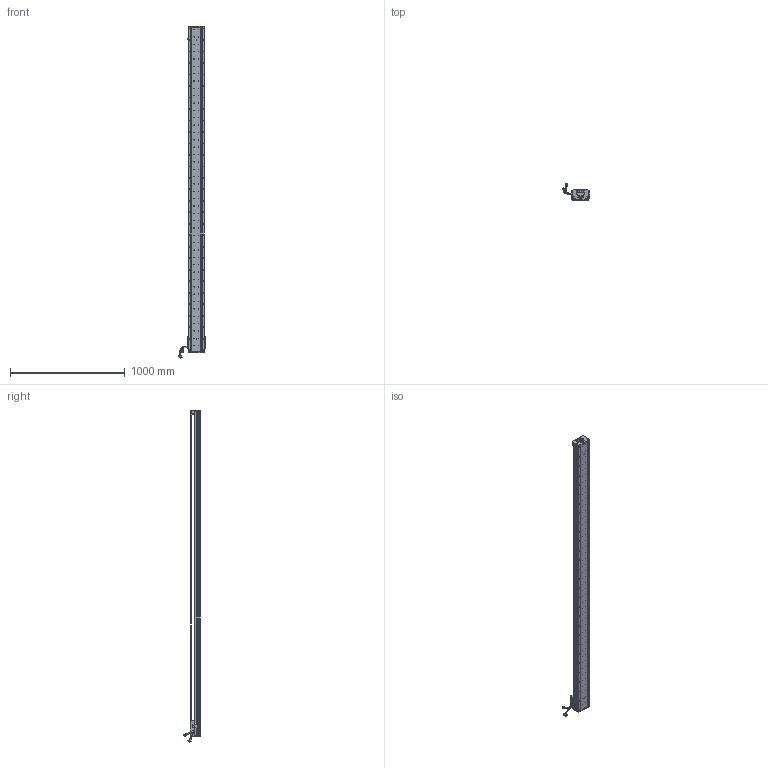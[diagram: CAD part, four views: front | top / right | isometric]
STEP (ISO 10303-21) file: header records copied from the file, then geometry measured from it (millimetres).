
FILE_DESCRIPTION (( 'STEP AP203' ), '1' );
FILE_NAME ('Z1-RY140D-1-L500-B-K.SLDASM_2650.step', '2021-05-17T07:36:03', ( '盈信电脑' ), ( '东莞市道滘镇水果街19号' ), 'SwSTEP 2.0', 'SolidWorks 2016', '' );
FILE_SCHEMA (( 'CONFIG_CONTROL_DESIGN' ));
Length unit declared in the file: millimetre
Products named in the file (36): LABEL; SCREW-M1.7-1; SCREW-M1.7; 140雄赽晤鎢ん堤盄; SEAL-Part-1; SCALE-Part-1; 140蚥薯蝶輸; HARNESS-Part-1; SEAL; SHIELDPLATE; 140-Z-臏賑輸盄裔(21遴); Z1-RY140圉猾敕臏賑輸(21遴); HARNESS; HARNESS-Part-2; Z-RY140詩湍奻揤裔; COVER-Part-1; HOLDER0; 080黍杅芛假蚾釱21遴; Z-RY140感应器672光电感应片; PBU_SHEET; PSLH080_PSLF2; Z1-RY140-L500詩湍100mm遵_2650; SCREW-M1.6; SCALE; SCALE-Part-2; 覜茼ん672; Z1-RY140-L500直线电机模组底座_2650; COVER; SCREW-M1.6-2; Z1-RY140D-1-L500-B-K.SLDASM_2650; Z-140詩湍傷裔啣; SCREW-M1.6-3; LABEL-Part-1; 榋妏寠巭燃_暯_M2_2; SCREW-M1.6-1; Z-RY140詩湍狟揤裔
Assembly tree (41 placements, depth 4):
  Z1-RY140D-1-L500-B-K.SLDASM_2650
    Z1-RY140-L500直线电机模组底座_2650
    Z-RY140感应器672光电感应片
    Z1-RY140圉猾敕臏賑輸(21遴)
    覜茼ん672  x3
    Z1-RY140-L500詩湍100mm遵_2650
    PSLH080_PSLF2
      SCALE
        SCALE-Part-1
        SCALE-Part-2
      HARNESS
        HARNESS-Part-1
        HARNESS-Part-2
      LABEL
        LABEL-Part-1
      COVER
        COVER-Part-1
      SEAL
        SEAL-Part-1
      榋妏寠巭燃_暯_M2_2
      SHIELDPLATE
      SCREW-M1.7
      SCREW-M1.7-1
      PBU_SHEET
      SCREW-M1.6
      SCREW-M1.6-1
      SCREW-M1.6-2
      SCREW-M1.6-3
      HOLDER0
    080黍杅芛假蚾釱21遴
    140-Z-臏賑輸盄裔(21遴)
    Z-140詩湍傷裔啣  x2
    Z-RY140詩湍狟揤裔  x2
    Z-RY140詩湍奻揤裔  x2
    140蚥薯蝶輸  x2
    140雄赽晤鎢ん堤盄
Bounding box: 239.79 x 143.88 x 2890.87 mm (x, y, z)
Volume: 8781318 mm3; surface area: 2330051 mm2
Topology: 36 solids, 36 shells, 4230 faces, 11582 edges, 7351 vertices
Faces by surface type: cylinder 2322, plane 1400, cone 386, torus 69, bspline 53
Entity records: 135902 total; most frequent: CARTESIAN_POINT 39287, ORIENTED_EDGE 20084, DIRECTION 18286, EDGE_CURVE 10042, AXIS2_PLACEMENT_3D 6782, VERTEX_POINT 6519, LINE 4722, VECTOR 4722
